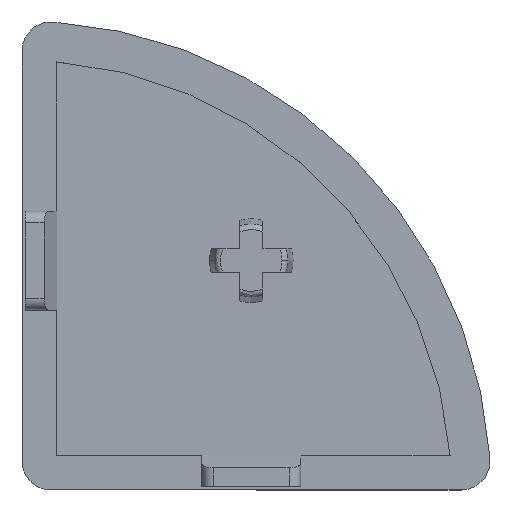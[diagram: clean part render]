
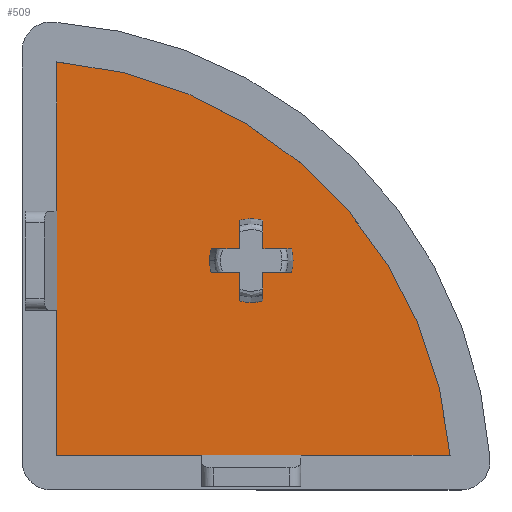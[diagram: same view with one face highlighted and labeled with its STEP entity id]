
A CAD part, top view. The second image highlights one B-rep face of the part: STEP entity #509.
In plain terms, the highlighted planar face has unit normal (0, 0, 1).
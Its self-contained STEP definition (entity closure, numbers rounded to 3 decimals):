
#1 = VECTOR ( 'NONE', #1885, 1000. ) ;
#25 = VECTOR ( 'NONE', #1841, 1000. ) ;
#26 = CIRCLE ( 'NONE', #1138, 3.6 ) ;
#50 = LINE ( 'NONE', #372, #552 ) ;
#54 = VECTOR ( 'NONE', #1906, 1000. ) ;
#65 = LINE ( 'NONE', #433, #479 ) ;
#68 = EDGE_CURVE ( 'NONE', #1158, #952, #936, .T. ) ;
#82 = CARTESIAN_POINT ( 'NONE',  ( -1., -1., 3. ) ) ;
#98 = VECTOR ( 'NONE', #1949, 1000. ) ;
#167 = CARTESIAN_POINT ( 'NONE',  ( -1., -19.75, 3. ) ) ;
#176 = ORIENTED_EDGE ( 'NONE', *, *, #405, .T. ) ;
#182 = ORIENTED_EDGE ( 'NONE', *, *, #826, .F. ) ;
#194 = ORIENTED_EDGE ( 'NONE', *, *, #68, .T. ) ;
#201 = VECTOR ( 'NONE', #764, 1000. ) ;
#212 = AXIS2_PLACEMENT_3D ( 'NONE', #293, #1280, #1096 ) ;
#224 = EDGE_CURVE ( 'NONE', #1427, #346, #1400, .T. ) ;
#251 = CARTESIAN_POINT ( 'NONE',  ( 3.458, 1., 3. ) ) ;
#286 = DIRECTION ( 'NONE',  ( 0., -1., 0. ) ) ;
#292 = CARTESIAN_POINT ( 'NONE',  ( -1., 3.458, 3. ) ) ;
#293 = CARTESIAN_POINT ( 'NONE',  ( -19.75, -19.75, 3. ) ) ;
#333 = VERTEX_POINT ( 'NONE', #2107 ) ;
#346 = VERTEX_POINT ( 'NONE', #2132 ) ;
#357 = LINE ( 'NONE', #854, #1032 ) ;
#364 = EDGE_CURVE ( 'NONE', #902, #1880, #935, .T. ) ;
#372 = CARTESIAN_POINT ( 'NONE',  ( 1., -19.75, 3. ) ) ;
#376 = CARTESIAN_POINT ( 'NONE',  ( -16.75, -16.75, 3. ) ) ;
#405 = EDGE_CURVE ( 'NONE', #346, #976, #749, .T. ) ;
#406 = CIRCLE ( 'NONE', #752, 3.6 ) ;
#433 = CARTESIAN_POINT ( 'NONE',  ( -16.75, 17.128, 3. ) ) ;
#434 = CARTESIAN_POINT ( 'NONE',  ( 0., 0., 3. ) ) ;
#437 = AXIS2_PLACEMENT_3D ( 'NONE', #813, #2165, #1979 ) ;
#438 = EDGE_CURVE ( 'NONE', #976, #333, #956, .T. ) ;
#467 = DIRECTION ( 'NONE',  ( -1., 0., 0. ) ) ;
#479 = VECTOR ( 'NONE', #1770, 1000. ) ;
#493 = FACE_OUTER_BOUND ( 'NONE', #1812, .T. ) ;
#495 = LINE ( 'NONE', #167, #25 ) ;
#500 = CARTESIAN_POINT ( 'NONE',  ( 1., -3.458, 3. ) ) ;
#501 = VERTEX_POINT ( 'NONE', #1478 ) ;
#509 = ADVANCED_FACE ( 'NONE', ( #666, #493 ), #2004, .T. ) ;
#510 = CARTESIAN_POINT ( 'NONE',  ( -16.75, 17.128, 3. ) ) ;
#534 = DIRECTION ( 'NONE',  ( 0., 0., 1. ) ) ;
#552 = VECTOR ( 'NONE', #702, 1000. ) ;
#569 = LINE ( 'NONE', #376, #54 ) ;
#576 = VECTOR ( 'NONE', #910, 1000. ) ;
#588 = CARTESIAN_POINT ( 'NONE',  ( -19.75, 1., 3. ) ) ;
#615 = CARTESIAN_POINT ( 'NONE',  ( 17.128, -16.75, 3. ) ) ;
#666 = FACE_BOUND ( 'NONE', #742, .T. ) ;
#702 = DIRECTION ( 'NONE',  ( 0., -1., 0. ) ) ;
#742 = EDGE_LOOP ( 'NONE', ( #182, #1214, #1179, #2010, #995, #2116, #2034, #1522, #176, #1606, #1123, #1961, #859 ) ) ;
#749 = LINE ( 'NONE', #1771, #1887 ) ;
#752 = AXIS2_PLACEMENT_3D ( 'NONE', #1307, #828, #1008 ) ;
#764 = DIRECTION ( 'NONE',  ( 1., 0., 0. ) ) ;
#779 = CARTESIAN_POINT ( 'NONE',  ( 0., 0., 3. ) ) ;
#799 = CARTESIAN_POINT ( 'NONE',  ( -3.458, 1., 3. ) ) ;
#802 = DIRECTION ( 'NONE',  ( 0., 0., -1. ) ) ;
#813 = CARTESIAN_POINT ( 'NONE',  ( -19.75, -19.75, 3. ) ) ;
#826 = EDGE_CURVE ( 'NONE', #964, #1742, #1617, .T. ) ;
#828 = DIRECTION ( 'NONE',  ( 0., 0., -1. ) ) ;
#854 = CARTESIAN_POINT ( 'NONE',  ( -1., -19.75, 3. ) ) ;
#859 = ORIENTED_EDGE ( 'NONE', *, *, #2113, .F. ) ;
#891 = EDGE_CURVE ( 'NONE', #964, #501, #1574, .T. ) ;
#902 = VERTEX_POINT ( 'NONE', #82 ) ;
#908 = VERTEX_POINT ( 'NONE', #292 ) ;
#910 = DIRECTION ( 'NONE',  ( 1., 0., 0. ) ) ;
#922 = AXIS2_PLACEMENT_3D ( 'NONE', #2035, #534, #1367 ) ;
#935 = LINE ( 'NONE', #1423, #98 ) ;
#936 = CIRCLE ( 'NONE', #212, 37. ) ;
#952 = VERTEX_POINT ( 'NONE', #510 ) ;
#956 = CIRCLE ( 'NONE', #2077, 3.6 ) ;
#964 = VERTEX_POINT ( 'NONE', #799 ) ;
#976 = VERTEX_POINT ( 'NONE', #500 ) ;
#995 = ORIENTED_EDGE ( 'NONE', *, *, #1839, .T. ) ;
#1008 = DIRECTION ( 'NONE',  ( -1., 0., 0. ) ) ;
#1009 = CARTESIAN_POINT ( 'NONE',  ( 3.458, -1., 3. ) ) ;
#1018 = EDGE_CURVE ( 'NONE', #333, #902, #357, .T. ) ;
#1032 = VECTOR ( 'NONE', #1384, 1000. ) ;
#1096 = DIRECTION ( 'NONE',  ( 1., 0., 0. ) ) ;
#1123 = ORIENTED_EDGE ( 'NONE', *, *, #1018, .T. ) ;
#1138 = AXIS2_PLACEMENT_3D ( 'NONE', #2150, #802, #1968 ) ;
#1152 = EDGE_CURVE ( 'NONE', #2015, #1346, #1561, .T. ) ;
#1156 = DIRECTION ( 'NONE',  ( 0., 0., 1. ) ) ;
#1158 = VERTEX_POINT ( 'NONE', #615 ) ;
#1179 = ORIENTED_EDGE ( 'NONE', *, *, #1670, .T. ) ;
#1186 = CARTESIAN_POINT ( 'NONE',  ( -16.75, -16.75, 3. ) ) ;
#1214 = ORIENTED_EDGE ( 'NONE', *, *, #891, .T. ) ;
#1245 = CARTESIAN_POINT ( 'NONE',  ( -19.75, 1., 3. ) ) ;
#1246 = VERTEX_POINT ( 'NONE', #1495 ) ;
#1263 = ORIENTED_EDGE ( 'NONE', *, *, #1532, .T. ) ;
#1280 = DIRECTION ( 'NONE',  ( 0., 0., 1. ) ) ;
#1307 = CARTESIAN_POINT ( 'NONE',  ( 0., 0., 3. ) ) ;
#1346 = VERTEX_POINT ( 'NONE', #251 ) ;
#1367 = DIRECTION ( 'NONE',  ( -1., 0., 0. ) ) ;
#1371 = CARTESIAN_POINT ( 'NONE',  ( -19.75, -1., 3. ) ) ;
#1384 = DIRECTION ( 'NONE',  ( 0., 1., 0. ) ) ;
#1400 = LINE ( 'NONE', #1371, #1 ) ;
#1423 = CARTESIAN_POINT ( 'NONE',  ( -19.75, -1., 3. ) ) ;
#1427 = VERTEX_POINT ( 'NONE', #1009 ) ;
#1478 = CARTESIAN_POINT ( 'NONE',  ( -1., 1., 3. ) ) ;
#1495 = CARTESIAN_POINT ( 'NONE',  ( 1., 3.458, 3. ) ) ;
#1522 = ORIENTED_EDGE ( 'NONE', *, *, #224, .T. ) ;
#1532 = EDGE_CURVE ( 'NONE', #2147, #1158, #569, .T. ) ;
#1561 = LINE ( 'NONE', #1245, #201 ) ;
#1574 = LINE ( 'NONE', #588, #576 ) ;
#1606 = ORIENTED_EDGE ( 'NONE', *, *, #438, .T. ) ;
#1617 = CIRCLE ( 'NONE', #922, 3.6 ) ;
#1663 = CIRCLE ( 'NONE', #2155, 3.6 ) ;
#1670 = EDGE_CURVE ( 'NONE', #501, #908, #495, .T. ) ;
#1682 = ORIENTED_EDGE ( 'NONE', *, *, #1955, .T. ) ;
#1705 = CARTESIAN_POINT ( 'NONE',  ( -3.6, 0., 3. ) ) ;
#1721 = EDGE_CURVE ( 'NONE', #908, #1246, #406, .T. ) ;
#1742 = VERTEX_POINT ( 'NONE', #1705 ) ;
#1770 = DIRECTION ( 'NONE',  ( 0., -1., 0. ) ) ;
#1771 = CARTESIAN_POINT ( 'NONE',  ( 1., -19.75, 3. ) ) ;
#1790 = DIRECTION ( 'NONE',  ( -1., 0., 0. ) ) ;
#1812 = EDGE_LOOP ( 'NONE', ( #194, #1682, #1263 ) ) ;
#1839 = EDGE_CURVE ( 'NONE', #1246, #2015, #50, .T. ) ;
#1841 = DIRECTION ( 'NONE',  ( 0., 1., 0. ) ) ;
#1880 = VERTEX_POINT ( 'NONE', #2065 ) ;
#1885 = DIRECTION ( 'NONE',  ( -1., 0., 0. ) ) ;
#1887 = VECTOR ( 'NONE', #286, 1000. ) ;
#1906 = DIRECTION ( 'NONE',  ( 1., 0., 0. ) ) ;
#1949 = DIRECTION ( 'NONE',  ( -1., 0., 0. ) ) ;
#1955 = EDGE_CURVE ( 'NONE', #952, #2147, #65, .T. ) ;
#1961 = ORIENTED_EDGE ( 'NONE', *, *, #364, .T. ) ;
#1968 = DIRECTION ( 'NONE',  ( -1., 0., 0. ) ) ;
#1969 = DIRECTION ( 'NONE',  ( 0., 0., -1. ) ) ;
#1979 = DIRECTION ( 'NONE',  ( 1., 0., 0. ) ) ;
#2004 = PLANE ( 'NONE',  #437 ) ;
#2010 = ORIENTED_EDGE ( 'NONE', *, *, #1721, .T. ) ;
#2015 = VERTEX_POINT ( 'NONE', #2141 ) ;
#2034 = ORIENTED_EDGE ( 'NONE', *, *, #2088, .T. ) ;
#2035 = CARTESIAN_POINT ( 'NONE',  ( 0., 0., 3. ) ) ;
#2065 = CARTESIAN_POINT ( 'NONE',  ( -3.458, -1., 3. ) ) ;
#2077 = AXIS2_PLACEMENT_3D ( 'NONE', #434, #1969, #1790 ) ;
#2088 = EDGE_CURVE ( 'NONE', #1346, #1427, #26, .T. ) ;
#2107 = CARTESIAN_POINT ( 'NONE',  ( -1., -3.458, 3. ) ) ;
#2113 = EDGE_CURVE ( 'NONE', #1742, #1880, #1663, .T. ) ;
#2116 = ORIENTED_EDGE ( 'NONE', *, *, #1152, .T. ) ;
#2132 = CARTESIAN_POINT ( 'NONE',  ( 1., -1., 3. ) ) ;
#2141 = CARTESIAN_POINT ( 'NONE',  ( 1., 1., 3. ) ) ;
#2147 = VERTEX_POINT ( 'NONE', #1186 ) ;
#2150 = CARTESIAN_POINT ( 'NONE',  ( 0., 0., 3. ) ) ;
#2155 = AXIS2_PLACEMENT_3D ( 'NONE', #779, #1156, #467 ) ;
#2165 = DIRECTION ( 'NONE',  ( 0., 0., 1. ) ) ;
